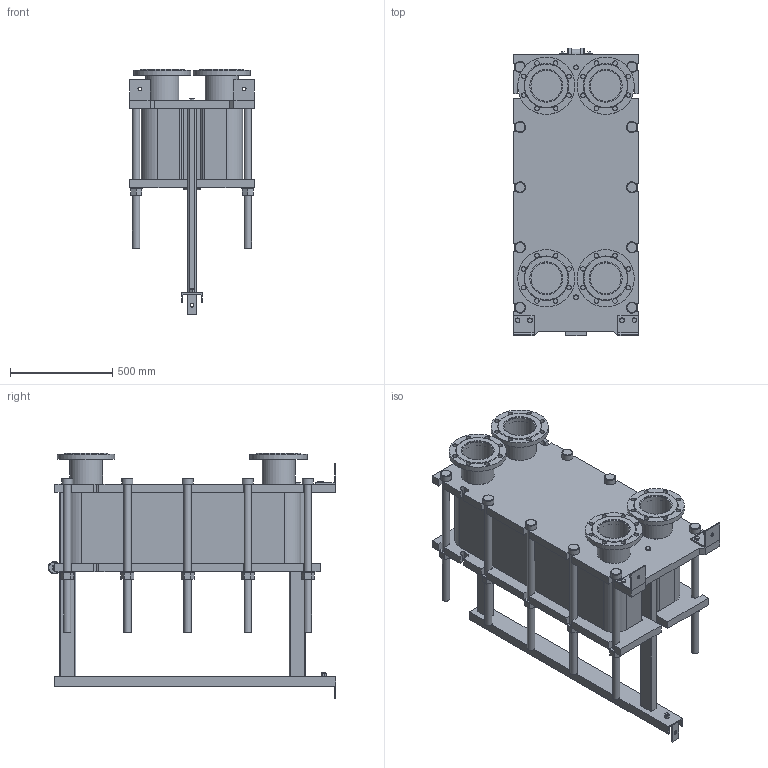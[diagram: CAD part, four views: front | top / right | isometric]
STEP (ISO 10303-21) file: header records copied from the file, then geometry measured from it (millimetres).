
FILE_DESCRIPTION(/* description */ (''),/* implementation_level */ '2;1');
FILE_NAME(/* name */ 'C:\Users\zhuro\Desktop\ENCO\TO\ЭН-041\ЭН-0,5-041-101-1.stp',/* time_stamp */ '2022-06-06T10:58:09+03:00',/* author */ ('zhuro'),/* organization */ (''),/* preprocessor_version */ 'ST-DEVELOPER v18.1',/* originating_system */ 'Autodesk Inventor 2022',/* authorisation */ '');
FILE_SCHEMA (('AUTOMOTIVE_DESIGN { 1 0 10303 214 3 1 1 }'));
Length unit declared in the file: millimetre
Products named in the file (1): ЭН-0,5-041-101-1
Bounding box: 610 x 1406.5 x 1197.5 mm (x, y, z)
Volume: 276524694.2 mm3; surface area: 9046560.3 mm2
Topology: 52 solids, 52 shells, 711 faces, 1696 edges, 1094 vertices
Faces by surface type: plane 487, cylinder 177, cone 41, torus 6
Full cylindrical faces by diameter (mm): 8 x4, 10 x2, 16 x8, 18 x3, 22 x32, 36 x24, 50 x1, 54 x10, 60 x12, 151 x4, 161 x8, 280 x4
Entity records: 22667 total; most frequent: CARTESIAN_POINT 5230, DIRECTION 3644, ORIENTED_EDGE 3392, EDGE_CURVE 1696, AXIS2_PLACEMENT_3D 1272, LINE 1100, VECTOR 1100, VERTEX_POINT 1094
